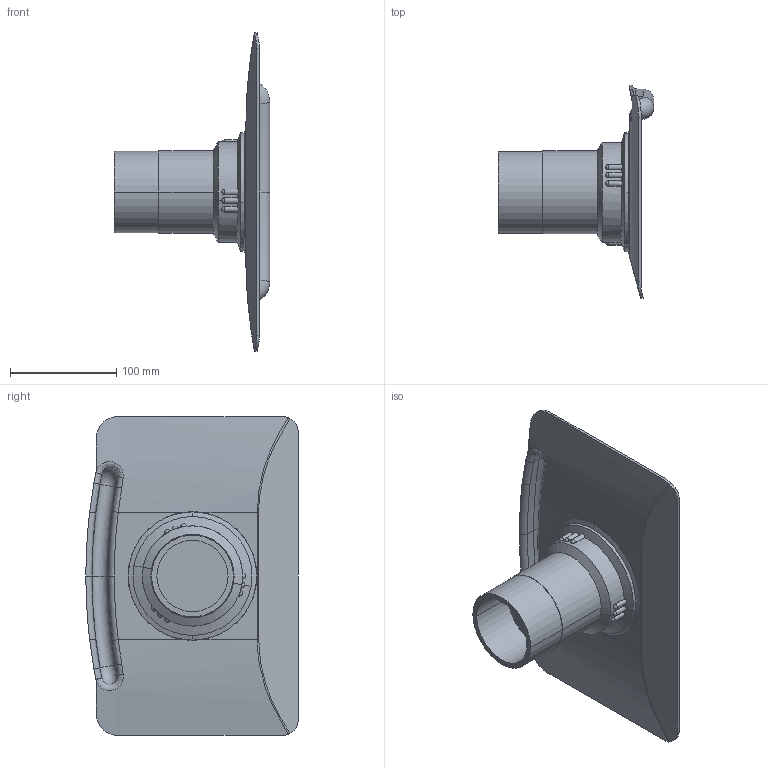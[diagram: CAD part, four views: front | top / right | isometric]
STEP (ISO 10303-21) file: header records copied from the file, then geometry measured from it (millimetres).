
FILE_DESCRIPTION((''),'2;1');
FILE_NAME('MEPH300-75','2015-12-02T',('Tomas Bellgran'),(''),'PRO/ENGINEER BY PARAMETRIC TECHNOLOGY CORPORATION, 2013410','PRO/ENGINEER BY PARAMETRIC TECHNOLOGY CORPORATION, 2013410','');
FILE_SCHEMA(('AUTOMOTIVE_DESIGN { 1 0 10303 214 1 1 1 1 }'));
Length unit declared in the file: millimetre
Products named in the file (6): 116336_AF0; 117006_AF0; 117012; 117108; 117011; MEPH300-75
Assembly tree (5 placements, depth 3):
  MEPH300-75
    117012
      116336_AF0
      117006_AF0
    117108
    117011
Bounding box: 146.4 x 199.87 x 300 mm (x, y, z)
Volume: 632251.6 mm3; surface area: 214307.2 mm2
Topology: 4 solids, 4 shells, 198 faces, 476 edges, 285 vertices
Faces by surface type: cylinder 49, bspline 46, plane 36, cone 30, torus 22, sphere 13, extrusion 2
Entity records: 11702 total; most frequent: CARTESIAN_POINT 5160, ORIENTED_EDGE 952, DIRECTION 817, EDGE_CURVE 476, AXIS2_PLACEMENT_3D 347, VERTEX_POINT 285, PRESENTATION_STYLE_ASSIGNMENT 273, STYLED_ITEM 273
